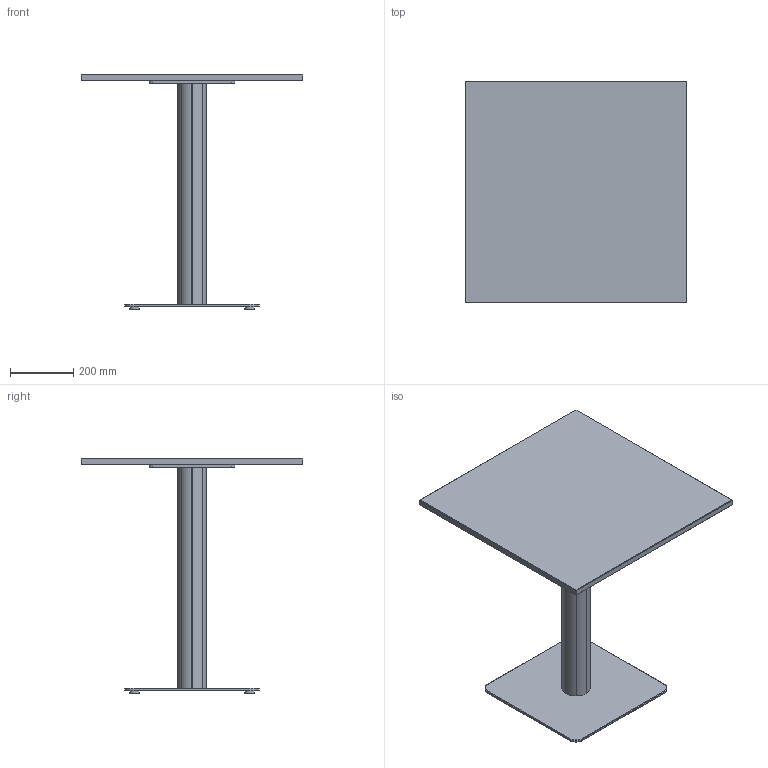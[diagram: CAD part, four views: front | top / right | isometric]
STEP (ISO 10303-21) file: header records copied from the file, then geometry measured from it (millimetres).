
FILE_DESCRIPTION( ('This file contains a STEP AP42 implementation' ,'as created by ZW3D STEP Interface translator.') ,'2;1' );
FILE_NAME( 'Fut - B_Carré - F4 - M1 - 700 x 700 x 750.stp' ,'24 911.162956', (''), ('ZWCAD Software Co.'), 'Version 1.0', 'ZW3D to STEP translator', '' );
FILE_SCHEMA(('AUTOMOTIVE_DESIGN { 1 0 10303 214 1 1 1 1 }'));
Length unit declared in the file: millimetre
Products named in the file (15): 0; PIED BISTROT PARAMETRIQUE_; CROIX ACIER 370 V.02_; CRX-X370-02_; SOCLE ACIER L 425x425 V.02_; SCL-R425-02_; PLA-R30A-01_; PLA-R30A-01; COLONNE ACIER Ø48.5 V.02_; TUB-D048-02_; PLA-R48A-01_; COLONNE BOIS PARAMETIQUE_; WUERTH 0276063020 Euro-screw 6.3x2 Verzinkt_; PLATEAU BISTROT PARAMETRIQUE_; insert_m6_13_
Assembly tree (23 placements, depth 3):
  0
  PIED BISTROT PARAMETRIQUE_
    CROIX ACIER 370 V.02_
      CRX-X370-02_
    SOCLE ACIER L 425x425 V.02_
      SCL-R425-02_
      PLA-R30A-01_
      PLA-R30A-01  x3
    COLONNE ACIER Ø48.5 V.02_
      TUB-D048-02_
      PLA-R48A-01_  x2
    COLONNE BOIS PARAMETIQUE_
    WUERTH 0276063020 Euro-screw 6.3x2 Verzinkt_
    PLATEAU BISTROT PARAMETRIQUE_
      insert_m6_13_  x8
Bounding box: 700 x 700 x 744 mm (x, y, z)
Volume: 14745760.8 mm3; surface area: 2195268.7 mm2
Topology: 23 solids, 23 shells, 561 faces, 1358 edges, 846 vertices
Faces by surface type: plane 282, bspline 129, cylinder 104, cone 45, torus 1
Full cylindrical faces by diameter (mm): 4.88 x1, 6 x8, 6.3 x1, 8 x45, 12 x2, 14 x2, 30 x4, 44.5 x3, 48.5 x1
Entity records: 13039 total; most frequent: CARTESIAN_POINT 3561, ORIENTED_EDGE 1722, DIRECTION 1600, EDGE_CURVE 861, VECTOR 558, LINE 558, VERTEX_POINT 548, AXIS2_PLACEMENT_3D 521
